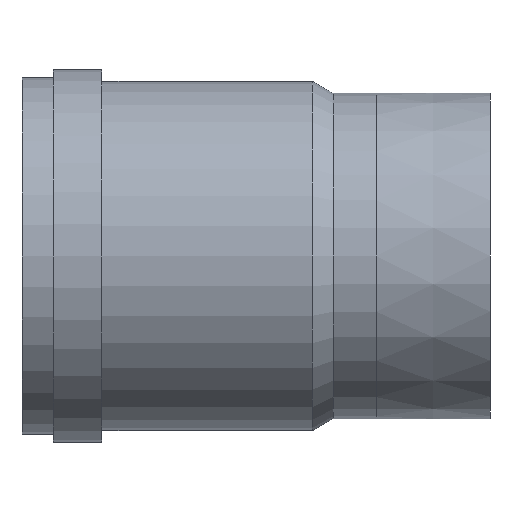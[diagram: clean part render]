
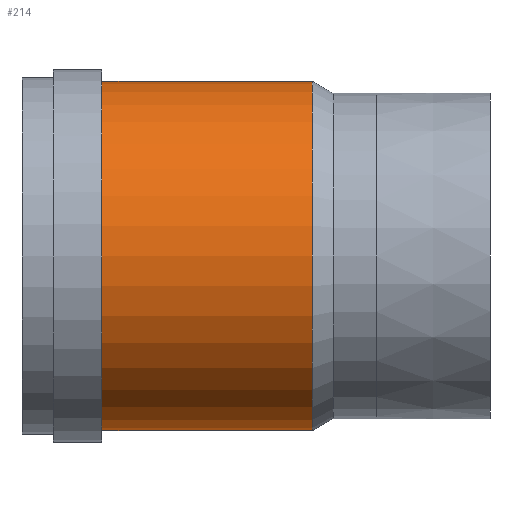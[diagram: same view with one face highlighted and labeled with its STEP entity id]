
A CAD part, front view. The second image highlights one B-rep face of the part: STEP entity #214.
In plain terms, the highlighted cylindrical face has radius 169 mm (diameter 338 mm), a full revolution.
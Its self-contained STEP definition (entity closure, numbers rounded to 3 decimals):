
#24=CYLINDRICAL_SURFACE($,#253,169.);
#39=FACE_OUTER_BOUND($,#98,.T.);
#63=FACE_BOUND($,#99,.T.);
#98=EDGE_LOOP($,(#188));
#99=EDGE_LOOP($,(#189));
#104=CIRCLE($,#226,169.);
#117=CIRCLE($,#252,169.);
#122=VERTEX_POINT($,#347);
#135=VERTEX_POINT($,#386);
#140=EDGE_CURVE($,#122,#122,#104,.T.);
#153=EDGE_CURVE($,#135,#135,#117,.T.);
#188=ORIENTED_EDGE($,*,*,#140,.T.);
#189=ORIENTED_EDGE($,*,*,#153,.T.);
#214=ADVANCED_FACE($,(#39,#63),#24,.T.);
#226=AXIS2_PLACEMENT_3D($,#348,#274,#275);
#252=AXIS2_PLACEMENT_3D($,#387,#326,#327);
#253=AXIS2_PLACEMENT_3D($,#388,#328,#329);
#274=DIRECTION('center_axis',(-1.,0.,0.));
#275=DIRECTION('ref_axis',(0.,0.,1.));
#326=DIRECTION('center_axis',(1.,0.,0.));
#327=DIRECTION('ref_axis',(0.,1.,0.));
#328=DIRECTION('center_axis',(1.,0.,0.));
#329=DIRECTION('ref_axis',(0.,1.,0.));
#347=CARTESIAN_POINT('',(281.121,0.,169.));
#348=CARTESIAN_POINT('Origin',(281.121,0.,0.));
#386=CARTESIAN_POINT('',(77.4,169.,0.));
#387=CARTESIAN_POINT('Origin',(77.4,0.,0.));
#388=CARTESIAN_POINT('Origin',(77.45,0.,0.));
